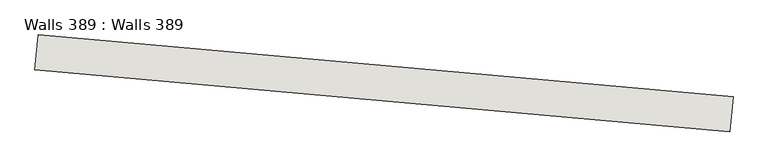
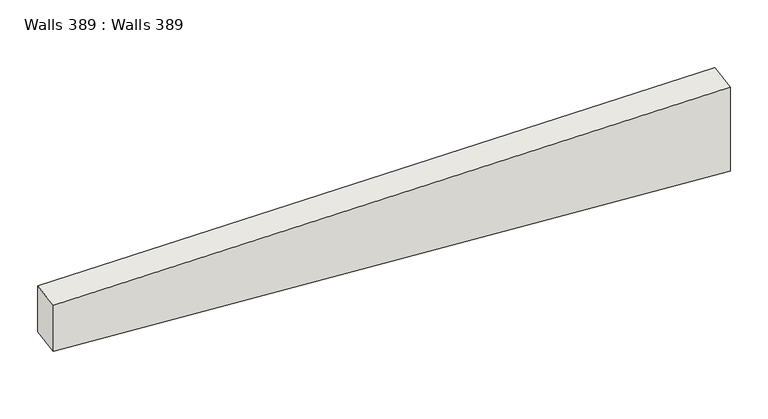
"""IFC4 building model written with IfcOpenShell, lengths in millimetres: wall geometry, Walls 389 : Walls 389."""

from ifc_helpers import new_model, si_unit, frame, origin, place, context, project, spatial, polyline, outline, extrude, source, transform, mapped, element, save


def walls_389_walls_389_291afad8(model_context):
    return source(origin(), model_context, "Body", "SweptSolid", [
        extrude(outline(polyline([(-550.25, 0.0), (550.25, 0.0), (49.75, -7999.9999999), (-550.25, -7999.9999999), (-550.25, 0.0)])), frame((-618890.0460545, -423944.3482338, 636910.25), z_axis=(0.08873732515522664, 0.9960550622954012, 0.0), x_axis=(0.0, 0.0, 1.0)), (0.0, 0.0, 1.0), 400.0),
    ])


if __name__ == "__main__":
    model = new_model("IFC4")
    model_context = context("Model", 3, world=origin())
    ifc_project = project(units=[si_unit("LENGTHUNIT", "METRE", prefix="MILLI")], contexts=[model_context])
    site = spatial("IfcSite", under=ifc_project)
    building = spatial("IfcBuilding", under=site)
    placement = place(None, origin())
    walls_389_walls_389_shape = walls_389_walls_389_291afad8(model_context)
    element("IfcWall", 1, ObjectType="Walls 389 : Walls 389", at=placement, inside=building, context=model_context, shape_type="MappedRepresentation", body=[
        mapped(walls_389_walls_389_shape, transform((0.0, 0.0, 0.0), x_axis=(1.0, 0.0, 0.0), y_axis=(0.0, 1.0, 0.0), z_axis=(0.0, 0.0, 1.0))),
    ])
    save(model, "model.ifc")
